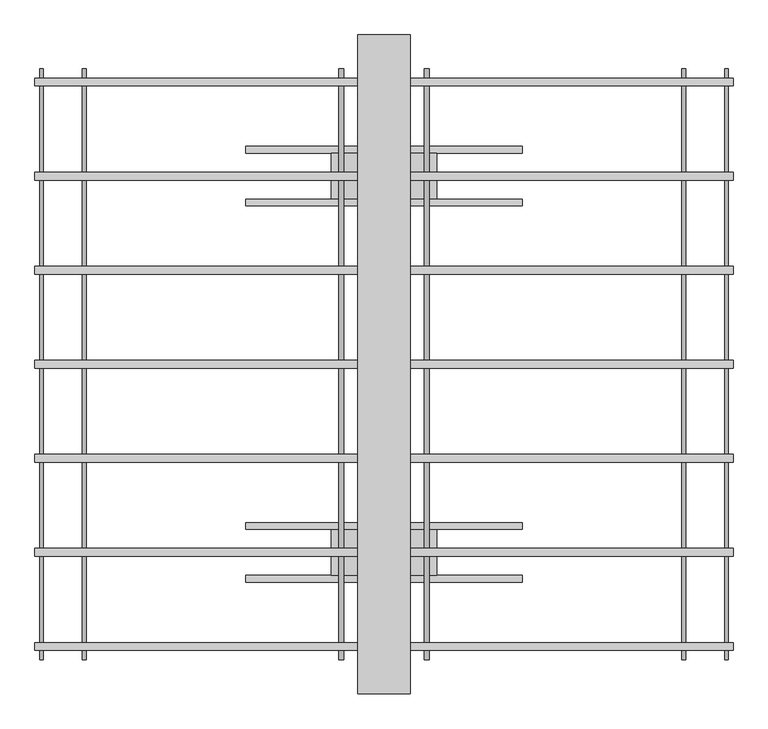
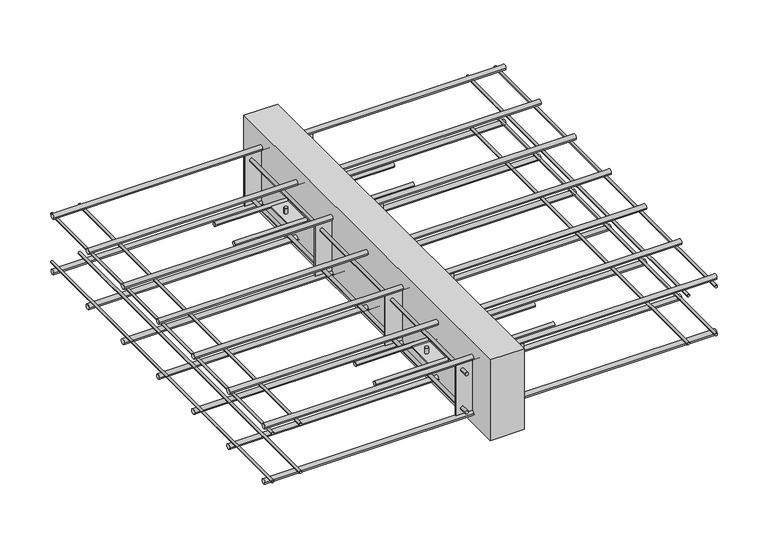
"""IFC4 building model written with IfcOpenShell, lengths in millimetres: proxy geometry, ACINOXplus_Typenreihe_M : ME+ S2."""

from ifc_helpers import new_model, si_unit, point, frame, frame_2d, origin, place, context, project, spatial, polyline, circle_curve, trimmed, segment, composite_curve, outline, extrude, source, transform, mapped, element, save
from ifc_brep_helpers import plane_surface, cylinder_surface, advanced_brep


def generic_models_80c5ff1a(model_context):
    return source(origin(), model_context, "Body", "SolidModel", [
        extrude(outline(composite_curve([segment(trimmed(circle_curve(frame_2d((-325.7142857, -104.5)), 5.0), [point((-330.7142857, -104.5))], [point((-320.7142857, -104.5))], False, "CARTESIAN"), True, "CONTINUOUS"), segment(trimmed(circle_curve(frame_2d((-325.7142857, -104.5)), 5.0), [point((-320.7142857, -104.5))], [point((-330.7142857, -104.5))], False, "CARTESIAN"), True, "CONTINUOUS")], self_intersect=False)), frame((-210.0, 0.0, 0.0), z_axis=(1.0, 0.0, 0.0), x_axis=(0.0, 1.0, 0.0)), (0.0, 0.0, 1.0), 420.0),
        extrude(outline(composite_curve([segment(trimmed(circle_curve(frame_2d((-245.7142857, -104.5)), 5.0), [point((-250.7142857, -104.5))], [point((-240.7142857, -104.5))], False, "CARTESIAN"), True, "CONTINUOUS"), segment(trimmed(circle_curve(frame_2d((-245.7142857, -104.5)), 5.0), [point((-240.7142857, -104.5))], [point((-250.7142857, -104.5))], False, "CARTESIAN"), True, "CONTINUOUS")], self_intersect=False)), frame((-210.0, 0.0, 0.0), z_axis=(1.0, 0.0, 0.0), x_axis=(0.0, 1.0, 0.0)), (0.0, 0.0, 1.0), 420.0),
        advanced_brep(
        [(-69.0, -285.7142857, -89.5), (-61.0, -285.7142857, -89.5), (61.0, -285.7142857, -89.5), (69.0, -285.7142857, -89.5), (-69.0, -285.7142857, -119.5), (-61.0, -285.7142857, -119.5), (61.0, -285.7142857, -119.5), (69.0, -285.7142857, -119.5), (-69.0, -285.7142857, -103.0), (-61.0, -285.7142857, -103.0), (-61.0, -285.7142857, -106.0), (-69.0, -285.7142857, -106.0), (61.0, -285.7142857, -103.0), (69.0, -285.7142857, -103.0), (69.0, -285.7142857, -106.0), (61.0, -285.7142857, -106.0), (80.0, -250.7142857, -103.0), (-80.0, -250.7142857, -103.0), (-80.0, -320.7142857, -103.0), (80.0, -320.7142857, -103.0), (80.0, -250.7142857, -106.0), (80.0, -320.7142857, -106.0), (-80.0, -320.7142857, -106.0), (-80.0, -250.7142857, -106.0)],
        [
            (0, 1, circle_curve(frame((-65.0, -285.7142857, -89.5), z_axis=(0.0, 0.0, 1.0), x_axis=(1.0, 0.0, 0.0)), 4.0)),
            (1, 0, circle_curve(frame((-65.0, -285.7142857, -89.5), z_axis=(0.0, 0.0, 1.0), x_axis=(1.0, 0.0, 0.0)), 4.0)),
            (2, 3, circle_curve(frame((65.0, -285.7142857, -89.5), z_axis=(0.0, 0.0, 1.0), x_axis=(1.0, 0.0, 0.0)), 4.0)),
            (3, 2, circle_curve(frame((65.0, -285.7142857, -89.5), z_axis=(0.0, 0.0, 1.0), x_axis=(1.0, 0.0, 0.0)), 4.0)),
            (4, 5, circle_curve(frame((-65.0, -285.7142857, -119.5), z_axis=(0.0, 0.0, -1.0), x_axis=(1.0, 0.0, 0.0)), 4.0)),
            (5, 4, circle_curve(frame((-65.0, -285.7142857, -119.5), z_axis=(0.0, 0.0, -1.0), x_axis=(1.0, 0.0, 0.0)), 4.0)),
            (6, 7, circle_curve(frame((65.0, -285.7142857, -119.5), z_axis=(0.0, 0.0, -1.0), x_axis=(1.0, 0.0, 0.0)), 4.0)),
            (7, 6, circle_curve(frame((65.0, -285.7142857, -119.5), z_axis=(0.0, 0.0, -1.0), x_axis=(1.0, 0.0, 0.0)), 4.0)),
            (0, 8),
            (8, 9, circle_curve(frame((-65.0, -285.7142857, -103.0), z_axis=(0.0, 0.0, 1.0), x_axis=(1.0, 0.0, 0.0)), 4.0)),
            (9, 1),
            (5, 10),
            (10, 11, circle_curve(frame((-65.0, -285.7142857, -106.0), z_axis=(0.0, 0.0, -1.0), x_axis=(1.0, 0.0, 0.0)), 4.0)),
            (11, 4),
            (9, 8, circle_curve(frame((-65.0, -285.7142857, -103.0), z_axis=(0.0, 0.0, 1.0), x_axis=(1.0, 0.0, 0.0)), 4.0)),
            (11, 10, circle_curve(frame((-65.0, -285.7142857, -106.0), z_axis=(0.0, 0.0, -1.0), x_axis=(1.0, 0.0, 0.0)), 4.0)),
            (2, 12),
            (12, 13, circle_curve(frame((65.0, -285.7142857, -103.0), z_axis=(0.0, 0.0, 1.0), x_axis=(1.0, 0.0, 0.0)), 4.0)),
            (13, 3),
            (7, 14),
            (14, 15, circle_curve(frame((65.0, -285.7142857, -106.0), z_axis=(0.0, 0.0, -1.0), x_axis=(1.0, 0.0, 0.0)), 4.0)),
            (15, 6),
            (13, 12, circle_curve(frame((65.0, -285.7142857, -103.0), z_axis=(0.0, 0.0, 1.0), x_axis=(1.0, 0.0, 0.0)), 4.0)),
            (15, 14, circle_curve(frame((65.0, -285.7142857, -106.0), z_axis=(0.0, 0.0, -1.0), x_axis=(1.0, 0.0, 0.0)), 4.0)),
            (16, 17),
            (17, 18),
            (18, 19),
            (19, 16),
            (20, 21),
            (21, 22),
            (22, 23),
            (23, 20),
            (16, 20),
            (23, 17),
            (22, 18),
            (21, 19),
        ],
        [
            plane_surface(frame((-61.0, -285.7142857, -89.5), z_axis=(0.0, 0.0, 1.0), x_axis=(0.0, 1.0, 0.0))),
            plane_surface(frame((-61.0, -285.7142857, -119.5), z_axis=(0.0, 0.0, -1.0), x_axis=(0.0, -1.0, 0.0))),
            cylinder_surface(frame((-65.0, -285.7142857, -119.5), z_axis=(0.0, 0.0, 1.0), x_axis=(1.0, 0.0, 0.0)), 4.0),
            cylinder_surface(frame((65.0, -285.7142857, -104.5), z_axis=(0.0, 0.0, 1.0), x_axis=(1.0, 0.0, 0.0)), 4.0),
            plane_surface(frame((-80.0, -250.7142857, -103.0), z_axis=(0.0, 0.0, 1.0), x_axis=(-1.0, 0.0, 0.0))),
            plane_surface(frame((-80.0, -250.7142857, -106.0), z_axis=(0.0, 0.0, -1.0), x_axis=(1.0, 0.0, 0.0))),
            plane_surface(frame((80.0, -250.7142857, -103.0), z_axis=(0.0, 1.0, 0.0), x_axis=(0.0, 0.0, -1.0))),
            plane_surface(frame((-80.0, -250.7142857, -103.0), z_axis=(-1.0, 0.0, 0.0), x_axis=(0.0, 0.0, -1.0))),
            plane_surface(frame((-80.0, -320.7142857, -103.0), z_axis=(0.0, -1.0, 0.0), x_axis=(0.0, 0.0, -1.0))),
            plane_surface(frame((80.0, -320.7142857, -103.0), z_axis=(1.0, 0.0, 0.0), x_axis=(0.0, 0.0, -1.0))),
        ],
        [
            (0, [[1, 2]]),
            (0, [[3, 4]]),
            (1, [[5, 6]]),
            (1, [[7, 8]]),
            (2, [[-1, 9, 10, 11]]),
            (2, [[-6, 12, 13, 14]]),
            (2, [[-2, -11, 15, -9]]),
            (2, [[-5, -14, 16, -12]]),
            (3, [[-3, 17, 18, 19]]),
            (3, [[-8, 20, 21, 22]]),
            (3, [[-4, -19, 23, -17]]),
            (3, [[-7, -22, 24, -20]]),
            (4, [[25, 26, 27, 28], [-10, -15], [-18, -23]]),
            (5, [[29, 30, 31, 32], [-13, -16], [-21, -24]]),
            (6, [[-25, 33, -32, 34]]),
            (7, [[-26, -34, -31, 35]]),
            (8, [[-27, -35, -30, 36]]),
            (9, [[-28, -36, -29, -33]]),
        ],
    ),
        extrude(outline(composite_curve([segment(trimmed(circle_curve(frame_2d((245.7142857, -104.5)), 5.0), [point((240.7142857, -104.5))], [point((250.7142857, -104.5))], False, "CARTESIAN"), True, "CONTINUOUS"), segment(trimmed(circle_curve(frame_2d((245.7142857, -104.5)), 5.0), [point((250.7142857, -104.5))], [point((240.7142857, -104.5))], False, "CARTESIAN"), True, "CONTINUOUS")], self_intersect=False)), frame((-210.0, 0.0, 0.0), z_axis=(1.0, 0.0, 0.0), x_axis=(0.0, 1.0, 0.0)), (0.0, 0.0, 1.0), 420.0),
        extrude(outline(composite_curve([segment(trimmed(circle_curve(frame_2d((325.7142857, -104.5)), 5.0), [point((320.7142857, -104.5))], [point((330.7142857, -104.5))], False, "CARTESIAN"), True, "CONTINUOUS"), segment(trimmed(circle_curve(frame_2d((325.7142857, -104.5)), 5.0), [point((330.7142857, -104.5))], [point((320.7142857, -104.5))], False, "CARTESIAN"), True, "CONTINUOUS")], self_intersect=False)), frame((-210.0, 0.0, 0.0), z_axis=(1.0, 0.0, 0.0), x_axis=(0.0, 1.0, 0.0)), (0.0, 0.0, 1.0), 420.0),
        advanced_brep(
        [(-69.0, 285.7142857, -89.5), (-61.0, 285.7142857, -89.5), (61.0, 285.7142857, -89.5), (69.0, 285.7142857, -89.5), (-69.0, 285.7142857, -119.5), (-61.0, 285.7142857, -119.5), (61.0, 285.7142857, -119.5), (69.0, 285.7142857, -119.5), (-69.0, 285.7142857, -103.0), (-61.0, 285.7142857, -103.0), (-61.0, 285.7142857, -106.0), (-69.0, 285.7142857, -106.0), (61.0, 285.7142857, -103.0), (69.0, 285.7142857, -103.0), (69.0, 285.7142857, -106.0), (61.0, 285.7142857, -106.0), (80.0, 320.7142857, -103.0), (-80.0, 320.7142857, -103.0), (-80.0, 250.7142857, -103.0), (80.0, 250.7142857, -103.0), (80.0, 320.7142857, -106.0), (80.0, 250.7142857, -106.0), (-80.0, 250.7142857, -106.0), (-80.0, 320.7142857, -106.0)],
        [
            (0, 1, circle_curve(frame((-65.0, 285.7142857, -89.5), z_axis=(0.0, 0.0, 1.0), x_axis=(1.0, 0.0, 0.0)), 4.0)),
            (1, 0, circle_curve(frame((-65.0, 285.7142857, -89.5), z_axis=(0.0, 0.0, 1.0), x_axis=(1.0, 0.0, 0.0)), 4.0)),
            (2, 3, circle_curve(frame((65.0, 285.7142857, -89.5), z_axis=(0.0, 0.0, 1.0), x_axis=(1.0, 0.0, 0.0)), 4.0)),
            (3, 2, circle_curve(frame((65.0, 285.7142857, -89.5), z_axis=(0.0, 0.0, 1.0), x_axis=(1.0, 0.0, 0.0)), 4.0)),
            (4, 5, circle_curve(frame((-65.0, 285.7142857, -119.5), z_axis=(0.0, 0.0, -1.0), x_axis=(1.0, 0.0, 0.0)), 4.0)),
            (5, 4, circle_curve(frame((-65.0, 285.7142857, -119.5), z_axis=(0.0, 0.0, -1.0), x_axis=(1.0, 0.0, 0.0)), 4.0)),
            (6, 7, circle_curve(frame((65.0, 285.7142857, -119.5), z_axis=(0.0, 0.0, -1.0), x_axis=(1.0, 0.0, 0.0)), 4.0)),
            (7, 6, circle_curve(frame((65.0, 285.7142857, -119.5), z_axis=(0.0, 0.0, -1.0), x_axis=(1.0, 0.0, 0.0)), 4.0)),
            (0, 8),
            (8, 9, circle_curve(frame((-65.0, 285.7142857, -103.0), z_axis=(0.0, 0.0, 1.0), x_axis=(1.0, 0.0, 0.0)), 4.0)),
            (9, 1),
            (5, 10),
            (10, 11, circle_curve(frame((-65.0, 285.7142857, -106.0), z_axis=(0.0, 0.0, -1.0), x_axis=(1.0, 0.0, 0.0)), 4.0)),
            (11, 4),
            (9, 8, circle_curve(frame((-65.0, 285.7142857, -103.0), z_axis=(0.0, 0.0, 1.0), x_axis=(1.0, 0.0, 0.0)), 4.0)),
            (11, 10, circle_curve(frame((-65.0, 285.7142857, -106.0), z_axis=(0.0, 0.0, -1.0), x_axis=(1.0, 0.0, 0.0)), 4.0)),
            (2, 12),
            (12, 13, circle_curve(frame((65.0, 285.7142857, -103.0), z_axis=(0.0, 0.0, 1.0), x_axis=(1.0, 0.0, 0.0)), 4.0)),
            (13, 3),
            (7, 14),
            (14, 15, circle_curve(frame((65.0, 285.7142857, -106.0), z_axis=(0.0, 0.0, -1.0), x_axis=(1.0, 0.0, 0.0)), 4.0)),
            (15, 6),
            (13, 12, circle_curve(frame((65.0, 285.7142857, -103.0), z_axis=(0.0, 0.0, 1.0), x_axis=(1.0, 0.0, 0.0)), 4.0)),
            (15, 14, circle_curve(frame((65.0, 285.7142857, -106.0), z_axis=(0.0, 0.0, -1.0), x_axis=(1.0, 0.0, 0.0)), 4.0)),
            (16, 17),
            (17, 18),
            (18, 19),
            (19, 16),
            (20, 21),
            (21, 22),
            (22, 23),
            (23, 20),
            (16, 20),
            (23, 17),
            (22, 18),
            (21, 19),
        ],
        [
            plane_surface(frame((-61.0, 285.7142857, -89.5), z_axis=(0.0, 0.0, 1.0), x_axis=(0.0, 1.0, 0.0))),
            plane_surface(frame((-61.0, 285.7142857, -119.5), z_axis=(0.0, 0.0, -1.0), x_axis=(0.0, -1.0, 0.0))),
            cylinder_surface(frame((-65.0, 285.7142857, -119.5), z_axis=(0.0, 0.0, 1.0), x_axis=(1.0, 0.0, 0.0)), 4.0),
            cylinder_surface(frame((65.0, 285.7142857, -104.5), z_axis=(0.0, 0.0, 1.0), x_axis=(1.0, 0.0, 0.0)), 4.0),
            plane_surface(frame((-80.0, 320.7142857, -103.0), z_axis=(0.0, 0.0, 1.0), x_axis=(-1.0, 0.0, 0.0))),
            plane_surface(frame((-80.0, 320.7142857, -106.0), z_axis=(0.0, 0.0, -1.0), x_axis=(1.0, 0.0, 0.0))),
            plane_surface(frame((80.0, 320.7142857, -103.0), z_axis=(0.0, 1.0, 0.0), x_axis=(0.0, 0.0, -1.0))),
            plane_surface(frame((-80.0, 320.7142857, -103.0), z_axis=(-1.0, 0.0, 0.0), x_axis=(0.0, 0.0, -1.0))),
            plane_surface(frame((-80.0, 250.7142857, -103.0), z_axis=(0.0, -1.0, 0.0), x_axis=(0.0, 0.0, -1.0))),
            plane_surface(frame((80.0, 250.7142857, -103.0), z_axis=(1.0, 0.0, 0.0), x_axis=(0.0, 0.0, -1.0))),
        ],
        [
            (0, [[1, 2]]),
            (0, [[3, 4]]),
            (1, [[5, 6]]),
            (1, [[7, 8]]),
            (2, [[-1, 9, 10, 11]]),
            (2, [[-6, 12, 13, 14]]),
            (2, [[-2, -11, 15, -9]]),
            (2, [[-5, -14, 16, -12]]),
            (3, [[-3, 17, 18, 19]]),
            (3, [[-8, 20, 21, 22]]),
            (3, [[-4, -19, 23, -17]]),
            (3, [[-7, -22, 24, -20]]),
            (4, [[25, 26, 27, 28], [-10, -15], [-18, -23]]),
            (5, [[29, 30, 31, 32], [-13, -16], [-21, -24]]),
            (6, [[-25, 33, -32, 34]]),
            (7, [[-26, -34, -31, 35]]),
            (8, [[-27, -35, -30, 36]]),
            (9, [[-28, -36, -29, -33]]),
        ],
    ),
        extrude(outline(polyline([(40.0, 500.0), (40.0, -500.0), (-40.0, -500.0), (-40.0, 500.0), (40.0, 500.0)])), frame((0.0, 0.0, -200.0), z_axis=(0.0, 0.0, 1.0), x_axis=(1.0, 0.0, 0.0)), (0.0, 0.0, 1.0), 200.0),
        extrude(outline(polyline([(80.0, -141.3571429), (80.0, -144.3571429), (-80.0, -144.3571429), (-80.0, -141.3571429), (80.0, -141.3571429)])), frame((0.0, 0.0, -167.0), z_axis=(0.0, 0.0, 1.0), x_axis=(1.0, 0.0, 0.0)), (0.0, 0.0, 1.0), 125.0),
        extrude(outline(polyline([(80.0, 144.3571429), (80.0, 141.3571429), (-80.0, 141.3571429), (-80.0, 144.3571429), (80.0, 144.3571429)])), frame((0.0, 0.0, -167.0), z_axis=(0.0, 0.0, 1.0), x_axis=(1.0, 0.0, 0.0)), (0.0, 0.0, 1.0), 125.0),
        extrude(outline(polyline([(80.0, -427.0714286), (80.0, -430.0714286), (-80.0, -430.0714286), (-80.0, -427.0714286), (80.0, -427.0714286)])), frame((0.0, 0.0, -167.0), z_axis=(0.0, 0.0, 1.0), x_axis=(1.0, 0.0, 0.0)), (0.0, 0.0, 1.0), 125.0),
        extrude(outline(polyline([(80.0, 430.0714286), (80.0, 427.0714286), (-80.0, 427.0714286), (-80.0, 430.0714286), (80.0, 430.0714286)])), frame((0.0, 0.0, -167.0), z_axis=(0.0, 0.0, 1.0), x_axis=(1.0, 0.0, 0.0)), (0.0, 0.0, 1.0), 125.0),
        extrude(outline(composite_curve([segment(trimmed(circle_curve(frame_2d((-152.0, -65.0)), 4.0), [point((-152.0, -61.0))], [point((-152.0, -69.0))], False, "CARTESIAN"), True, "CONTINUOUS"), segment(trimmed(circle_curve(frame_2d((-152.0, -65.0)), 4.0), [point((-152.0, -69.0))], [point((-152.0, -61.0))], False, "CARTESIAN"), True, "CONTINUOUS")], self_intersect=False)), frame((0.0, -448.5714286, 0.0), z_axis=(0.0, 1.0, 0.0), x_axis=(0.0, 0.0, 1.0)), (0.0, 0.0, 1.0), 18.5),
        extrude(outline(composite_curve([segment(trimmed(circle_curve(frame_2d((-152.0, -65.0)), 4.0), [point((-152.0, -69.0))], [point((-152.0, -61.0))], False, "CARTESIAN"), True, "CONTINUOUS"), segment(trimmed(circle_curve(frame_2d((-152.0, -65.0)), 4.0), [point((-152.0, -61.0))], [point((-152.0, -69.0))], False, "CARTESIAN"), True, "CONTINUOUS")], self_intersect=False)), frame((0.0, -427.0714286, 0.0), z_axis=(0.0, 1.0, 0.0), x_axis=(0.0, 0.0, 1.0)), (0.0, 0.0, 1.0), 568.4285714),
        extrude(outline(composite_curve([segment(trimmed(circle_curve(frame_2d((-152.0, -65.0)), 4.0), [point((-152.0, -69.0))], [point((-152.0, -61.0))], False, "CARTESIAN"), True, "CONTINUOUS"), segment(trimmed(circle_curve(frame_2d((-152.0, -65.0)), 4.0), [point((-152.0, -61.0))], [point((-152.0, -69.0))], False, "CARTESIAN"), True, "CONTINUOUS")], self_intersect=False)), frame((0.0, 430.0714286, 0.0), z_axis=(0.0, 1.0, 0.0), x_axis=(0.0, 0.0, 1.0)), (0.0, 0.0, 1.0), 18.5),
        extrude(outline(composite_curve([segment(trimmed(circle_curve(frame_2d((-152.0, -65.0)), 4.0), [point((-152.0, -69.0))], [point((-152.0, -61.0))], False, "CARTESIAN"), True, "CONTINUOUS"), segment(trimmed(circle_curve(frame_2d((-152.0, -65.0)), 4.0), [point((-152.0, -61.0))], [point((-152.0, -69.0))], False, "CARTESIAN"), True, "CONTINUOUS")], self_intersect=False)), frame((0.0, 144.3571429, 0.0), z_axis=(0.0, 1.0, 0.0), x_axis=(0.0, 0.0, 1.0)), (0.0, 0.0, 1.0), 282.7142857),
        extrude(outline(composite_curve([segment(trimmed(circle_curve(frame_2d((-152.0, 65.0)), 4.0), [point((-152.0, 69.0))], [point((-152.0, 61.0))], False, "CARTESIAN"), True, "CONTINUOUS"), segment(trimmed(circle_curve(frame_2d((-152.0, 65.0)), 4.0), [point((-152.0, 61.0))], [point((-152.0, 69.0))], False, "CARTESIAN"), True, "CONTINUOUS")], self_intersect=False)), frame((0.0, -448.5714286, 0.0), z_axis=(0.0, 1.0, 0.0), x_axis=(0.0, 0.0, 1.0)), (0.0, 0.0, 1.0), 18.5),
        extrude(outline(composite_curve([segment(trimmed(circle_curve(frame_2d((-152.0, 65.0)), 4.0), [point((-152.0, 61.0))], [point((-152.0, 69.0))], False, "CARTESIAN"), True, "CONTINUOUS"), segment(trimmed(circle_curve(frame_2d((-152.0, 65.0)), 4.0), [point((-152.0, 69.0))], [point((-152.0, 61.0))], False, "CARTESIAN"), True, "CONTINUOUS")], self_intersect=False)), frame((0.0, -427.0714286, 0.0), z_axis=(0.0, 1.0, 0.0), x_axis=(0.0, 0.0, 1.0)), (0.0, 0.0, 1.0), 568.4285714),
        extrude(outline(composite_curve([segment(trimmed(circle_curve(frame_2d((-152.0, 65.0)), 4.0), [point((-152.0, 61.0))], [point((-152.0, 69.0))], False, "CARTESIAN"), True, "CONTINUOUS"), segment(trimmed(circle_curve(frame_2d((-152.0, 65.0)), 4.0), [point((-152.0, 69.0))], [point((-152.0, 61.0))], False, "CARTESIAN"), True, "CONTINUOUS")], self_intersect=False)), frame((0.0, 430.0714286, 0.0), z_axis=(0.0, 1.0, 0.0), x_axis=(0.0, 0.0, 1.0)), (0.0, 0.0, 1.0), 18.5),
        extrude(outline(composite_curve([segment(trimmed(circle_curve(frame_2d((-152.0, 65.0)), 4.0), [point((-152.0, 61.0))], [point((-152.0, 69.0))], False, "CARTESIAN"), True, "CONTINUOUS"), segment(trimmed(circle_curve(frame_2d((-152.0, 65.0)), 4.0), [point((-152.0, 69.0))], [point((-152.0, 61.0))], False, "CARTESIAN"), True, "CONTINUOUS")], self_intersect=False)), frame((0.0, 144.3571429, 0.0), z_axis=(0.0, 1.0, 0.0), x_axis=(0.0, 0.0, 1.0)), (0.0, 0.0, 1.0), 282.7142857),
        extrude(outline(composite_curve([segment(trimmed(circle_curve(frame_2d((-57.0, -65.0)), 4.0), [point((-57.0, -61.0))], [point((-57.0, -69.0))], False, "CARTESIAN"), True, "CONTINUOUS"), segment(trimmed(circle_curve(frame_2d((-57.0, -65.0)), 4.0), [point((-57.0, -69.0))], [point((-57.0, -61.0))], False, "CARTESIAN"), True, "CONTINUOUS")], self_intersect=False)), frame((0.0, -448.5714286, 0.0), z_axis=(0.0, 1.0, 0.0), x_axis=(0.0, 0.0, 1.0)), (0.0, 0.0, 1.0), 18.5),
        extrude(outline(composite_curve([segment(trimmed(circle_curve(frame_2d((-57.0, -65.0)), 4.0), [point((-57.0, -69.0))], [point((-57.0, -61.0))], False, "CARTESIAN"), True, "CONTINUOUS"), segment(trimmed(circle_curve(frame_2d((-57.0, -65.0)), 4.0), [point((-57.0, -61.0))], [point((-57.0, -69.0))], False, "CARTESIAN"), True, "CONTINUOUS")], self_intersect=False)), frame((0.0, -427.0714286, 0.0), z_axis=(0.0, 1.0, 0.0), x_axis=(0.0, 0.0, 1.0)), (0.0, 0.0, 1.0), 568.4285714),
        extrude(outline(composite_curve([segment(trimmed(circle_curve(frame_2d((-57.0, -65.0)), 4.0), [point((-57.0, -69.0))], [point((-57.0, -61.0))], False, "CARTESIAN"), True, "CONTINUOUS"), segment(trimmed(circle_curve(frame_2d((-57.0, -65.0)), 4.0), [point((-57.0, -61.0))], [point((-57.0, -69.0))], False, "CARTESIAN"), True, "CONTINUOUS")], self_intersect=False)), frame((0.0, 430.0714286, 0.0), z_axis=(0.0, 1.0, 0.0), x_axis=(0.0, 0.0, 1.0)), (0.0, 0.0, 1.0), 18.5),
        extrude(outline(composite_curve([segment(trimmed(circle_curve(frame_2d((-57.0, -65.0)), 4.0), [point((-57.0, -69.0))], [point((-57.0, -61.0))], False, "CARTESIAN"), True, "CONTINUOUS"), segment(trimmed(circle_curve(frame_2d((-57.0, -65.0)), 4.0), [point((-57.0, -61.0))], [point((-57.0, -69.0))], False, "CARTESIAN"), True, "CONTINUOUS")], self_intersect=False)), frame((0.0, 144.3571429, 0.0), z_axis=(0.0, 1.0, 0.0), x_axis=(0.0, 0.0, 1.0)), (0.0, 0.0, 1.0), 282.7142857),
        extrude(outline(composite_curve([segment(trimmed(circle_curve(frame_2d((-57.0, 65.0)), 4.0), [point((-57.0, 69.0))], [point((-57.0, 61.0))], False, "CARTESIAN"), True, "CONTINUOUS"), segment(trimmed(circle_curve(frame_2d((-57.0, 65.0)), 4.0), [point((-57.0, 61.0))], [point((-57.0, 69.0))], False, "CARTESIAN"), True, "CONTINUOUS")], self_intersect=False)), frame((0.0, -448.5714286, 0.0), z_axis=(0.0, 1.0, 0.0), x_axis=(0.0, 0.0, 1.0)), (0.0, 0.0, 1.0), 18.5),
        extrude(outline(composite_curve([segment(trimmed(circle_curve(frame_2d((-57.0, 65.0)), 4.0), [point((-57.0, 61.0))], [point((-57.0, 69.0))], False, "CARTESIAN"), True, "CONTINUOUS"), segment(trimmed(circle_curve(frame_2d((-57.0, 65.0)), 4.0), [point((-57.0, 69.0))], [point((-57.0, 61.0))], False, "CARTESIAN"), True, "CONTINUOUS")], self_intersect=False)), frame((0.0, -427.0714286, 0.0), z_axis=(0.0, 1.0, 0.0), x_axis=(0.0, 0.0, 1.0)), (0.0, 0.0, 1.0), 568.4285714),
        extrude(outline(composite_curve([segment(trimmed(circle_curve(frame_2d((-57.0, 65.0)), 4.0), [point((-57.0, 61.0))], [point((-57.0, 69.0))], False, "CARTESIAN"), True, "CONTINUOUS"), segment(trimmed(circle_curve(frame_2d((-57.0, 65.0)), 4.0), [point((-57.0, 69.0))], [point((-57.0, 61.0))], False, "CARTESIAN"), True, "CONTINUOUS")], self_intersect=False)), frame((0.0, 430.0714286, 0.0), z_axis=(0.0, 1.0, 0.0), x_axis=(0.0, 0.0, 1.0)), (0.0, 0.0, 1.0), 18.5),
        extrude(outline(composite_curve([segment(trimmed(circle_curve(frame_2d((-57.0, 65.0)), 4.0), [point((-57.0, 61.0))], [point((-57.0, 69.0))], False, "CARTESIAN"), True, "CONTINUOUS"), segment(trimmed(circle_curve(frame_2d((-57.0, 65.0)), 4.0), [point((-57.0, 69.0))], [point((-57.0, 61.0))], False, "CARTESIAN"), True, "CONTINUOUS")], self_intersect=False)), frame((0.0, 144.3571429, 0.0), z_axis=(0.0, 1.0, 0.0), x_axis=(0.0, 0.0, 1.0)), (0.0, 0.0, 1.0), 282.7142857),
        extrude(outline(composite_curve([segment(trimmed(circle_curve(frame_2d((142.8571429, -173.0)), 6.0), [point((136.8571429, -173.0))], [point((148.8571429, -173.0))], False, "CARTESIAN"), True, "CONTINUOUS"), segment(trimmed(circle_curve(frame_2d((142.8571429, -173.0)), 6.0), [point((148.8571429, -173.0))], [point((136.8571429, -173.0))], False, "CARTESIAN"), True, "CONTINUOUS")], self_intersect=False)), frame((-530.0, 0.0, 0.0), z_axis=(1.0, 0.0, 0.0), x_axis=(0.0, 1.0, 0.0)), (0.0, 0.0, 1.0), 1060.0),
        extrude(outline(composite_curve([segment(trimmed(circle_curve(frame_2d((0.0, -173.0)), 6.0), [point((-6.0, -173.0))], [point((6.0, -173.0))], False, "CARTESIAN"), True, "CONTINUOUS"), segment(trimmed(circle_curve(frame_2d((0.0, -173.0)), 6.0), [point((6.0, -173.0))], [point((-6.0, -173.0))], False, "CARTESIAN"), True, "CONTINUOUS")], self_intersect=False)), frame((-530.0, 0.0, 0.0), z_axis=(1.0, 0.0, 0.0), x_axis=(0.0, 1.0, 0.0)), (0.0, 0.0, 1.0), 1060.0),
        extrude(outline(composite_curve([segment(trimmed(circle_curve(frame_2d((-142.8571429, -173.0)), 6.0), [point((-148.8571429, -173.0))], [point((-136.8571429, -173.0))], False, "CARTESIAN"), True, "CONTINUOUS"), segment(trimmed(circle_curve(frame_2d((-142.8571429, -173.0)), 6.0), [point((-136.8571429, -173.0))], [point((-148.8571429, -173.0))], False, "CARTESIAN"), True, "CONTINUOUS")], self_intersect=False)), frame((-530.0, 0.0, 0.0), z_axis=(1.0, 0.0, 0.0), x_axis=(0.0, 1.0, 0.0)), (0.0, 0.0, 1.0), 1060.0),
        extrude(outline(composite_curve([segment(trimmed(circle_curve(frame_2d((285.7142857, -173.0)), 6.0), [point((279.7142857, -173.0))], [point((291.7142857, -173.0))], False, "CARTESIAN"), True, "CONTINUOUS"), segment(trimmed(circle_curve(frame_2d((285.7142857, -173.0)), 6.0), [point((291.7142857, -173.0))], [point((279.7142857, -173.0))], False, "CARTESIAN"), True, "CONTINUOUS")], self_intersect=False)), frame((-530.0, 0.0, 0.0), z_axis=(1.0, 0.0, 0.0), x_axis=(0.0, 1.0, 0.0)), (0.0, 0.0, 1.0), 1060.0),
        extrude(outline(composite_curve([segment(trimmed(circle_curve(frame_2d((428.5714286, -173.0)), 6.0), [point((422.5714286, -173.0))], [point((434.5714286, -173.0))], False, "CARTESIAN"), True, "CONTINUOUS"), segment(trimmed(circle_curve(frame_2d((428.5714286, -173.0)), 6.0), [point((434.5714286, -173.0))], [point((422.5714286, -173.0))], False, "CARTESIAN"), True, "CONTINUOUS")], self_intersect=False)), frame((-530.0, 0.0, 0.0), z_axis=(1.0, 0.0, 0.0), x_axis=(0.0, 1.0, 0.0)), (0.0, 0.0, 1.0), 1060.0),
        extrude(outline(composite_curve([segment(trimmed(circle_curve(frame_2d((-285.7142857, -173.0)), 6.0), [point((-291.7142857, -173.0))], [point((-279.7142857, -173.0))], False, "CARTESIAN"), True, "CONTINUOUS"), segment(trimmed(circle_curve(frame_2d((-285.7142857, -173.0)), 6.0), [point((-279.7142857, -173.0))], [point((-291.7142857, -173.0))], False, "CARTESIAN"), True, "CONTINUOUS")], self_intersect=False)), frame((-530.0, 0.0, 0.0), z_axis=(1.0, 0.0, 0.0), x_axis=(0.0, 1.0, 0.0)), (0.0, 0.0, 1.0), 1060.0),
        extrude(outline(composite_curve([segment(trimmed(circle_curve(frame_2d((-428.5714286, -173.0)), 6.0), [point((-434.5714286, -173.0))], [point((-422.5714286, -173.0))], False, "CARTESIAN"), True, "CONTINUOUS"), segment(trimmed(circle_curve(frame_2d((-428.5714286, -173.0)), 6.0), [point((-422.5714286, -173.0))], [point((-434.5714286, -173.0))], False, "CARTESIAN"), True, "CONTINUOUS")], self_intersect=False)), frame((-530.0, 0.0, 0.0), z_axis=(1.0, 0.0, 0.0), x_axis=(0.0, 1.0, 0.0)), (0.0, 0.0, 1.0), 1060.0),
        extrude(outline(composite_curve([segment(trimmed(circle_curve(frame_2d((142.8571429, -36.0)), 6.0), [point((136.8571429, -36.0))], [point((148.8571429, -36.0))], False, "CARTESIAN"), True, "CONTINUOUS"), segment(trimmed(circle_curve(frame_2d((142.8571429, -36.0)), 6.0), [point((148.8571429, -36.0))], [point((136.8571429, -36.0))], False, "CARTESIAN"), True, "CONTINUOUS")], self_intersect=False)), frame((-530.0, 0.0, 0.0), z_axis=(1.0, 0.0, 0.0), x_axis=(0.0, 1.0, 0.0)), (0.0, 0.0, 1.0), 1060.0),
        extrude(outline(composite_curve([segment(trimmed(circle_curve(frame_2d((0.0, -36.0)), 6.0), [point((-6.0, -36.0))], [point((6.0, -36.0))], False, "CARTESIAN"), True, "CONTINUOUS"), segment(trimmed(circle_curve(frame_2d((0.0, -36.0)), 6.0), [point((6.0, -36.0))], [point((-6.0, -36.0))], False, "CARTESIAN"), True, "CONTINUOUS")], self_intersect=False)), frame((-530.0, 0.0, 0.0), z_axis=(1.0, 0.0, 0.0), x_axis=(0.0, 1.0, 0.0)), (0.0, 0.0, 1.0), 1060.0),
        extrude(outline(composite_curve([segment(trimmed(circle_curve(frame_2d((-142.8571429, -36.0)), 6.0), [point((-148.8571429, -36.0))], [point((-136.8571429, -36.0))], False, "CARTESIAN"), True, "CONTINUOUS"), segment(trimmed(circle_curve(frame_2d((-142.8571429, -36.0)), 6.0), [point((-136.8571429, -36.0))], [point((-148.8571429, -36.0))], False, "CARTESIAN"), True, "CONTINUOUS")], self_intersect=False)), frame((-530.0, 0.0, 0.0), z_axis=(1.0, 0.0, 0.0), x_axis=(0.0, 1.0, 0.0)), (0.0, 0.0, 1.0), 1060.0),
        extrude(outline(composite_curve([segment(trimmed(circle_curve(frame_2d((285.7142857, -36.0)), 6.0), [point((279.7142857, -36.0))], [point((291.7142857, -36.0))], False, "CARTESIAN"), True, "CONTINUOUS"), segment(trimmed(circle_curve(frame_2d((285.7142857, -36.0)), 6.0), [point((291.7142857, -36.0))], [point((279.7142857, -36.0))], False, "CARTESIAN"), True, "CONTINUOUS")], self_intersect=False)), frame((-530.0, 0.0, 0.0), z_axis=(1.0, 0.0, 0.0), x_axis=(0.0, 1.0, 0.0)), (0.0, 0.0, 1.0), 1060.0),
        extrude(outline(composite_curve([segment(trimmed(circle_curve(frame_2d((428.5714286, -36.0)), 6.0), [point((422.5714286, -36.0))], [point((434.5714286, -36.0))], False, "CARTESIAN"), True, "CONTINUOUS"), segment(trimmed(circle_curve(frame_2d((428.5714286, -36.0)), 6.0), [point((434.5714286, -36.0))], [point((422.5714286, -36.0))], False, "CARTESIAN"), True, "CONTINUOUS")], self_intersect=False)), frame((-530.0, 0.0, 0.0), z_axis=(1.0, 0.0, 0.0), x_axis=(0.0, 1.0, 0.0)), (0.0, 0.0, 1.0), 1060.0),
        extrude(outline(composite_curve([segment(trimmed(circle_curve(frame_2d((-285.7142857, -36.0)), 6.0), [point((-291.7142857, -36.0))], [point((-279.7142857, -36.0))], False, "CARTESIAN"), True, "CONTINUOUS"), segment(trimmed(circle_curve(frame_2d((-285.7142857, -36.0)), 6.0), [point((-279.7142857, -36.0))], [point((-291.7142857, -36.0))], False, "CARTESIAN"), True, "CONTINUOUS")], self_intersect=False)), frame((-530.0, 0.0, 0.0), z_axis=(1.0, 0.0, 0.0), x_axis=(0.0, 1.0, 0.0)), (0.0, 0.0, 1.0), 1060.0),
        extrude(outline(composite_curve([segment(trimmed(circle_curve(frame_2d((-428.5714286, -36.0)), 6.0), [point((-434.5714286, -36.0))], [point((-422.5714286, -36.0))], False, "CARTESIAN"), True, "CONTINUOUS"), segment(trimmed(circle_curve(frame_2d((-428.5714286, -36.0)), 6.0), [point((-422.5714286, -36.0))], [point((-434.5714286, -36.0))], False, "CARTESIAN"), True, "CONTINUOUS")], self_intersect=False)), frame((-530.0, 0.0, 0.0), z_axis=(1.0, 0.0, 0.0), x_axis=(0.0, 1.0, 0.0)), (0.0, 0.0, 1.0), 1060.0),
        extrude(outline(composite_curve([segment(trimmed(circle_curve(frame_2d((-164.0, -520.0)), 3.0), [point((-164.0, -517.0))], [point((-164.0, -523.0))], False, "CARTESIAN"), True, "CONTINUOUS"), segment(trimmed(circle_curve(frame_2d((-164.0, -520.0)), 3.0), [point((-164.0, -523.0))], [point((-164.0, -517.0))], False, "CARTESIAN"), True, "CONTINUOUS")], self_intersect=False)), frame((0.0, -448.5714286, 0.0), z_axis=(0.0, 1.0, 0.0), x_axis=(0.0, 0.0, 1.0)), (0.0, 0.0, 1.0), 897.1428571),
        extrude(outline(composite_curve([segment(trimmed(circle_curve(frame_2d((-164.0, -455.0)), 3.0), [point((-164.0, -452.0))], [point((-164.0, -458.0))], False, "CARTESIAN"), True, "CONTINUOUS"), segment(trimmed(circle_curve(frame_2d((-164.0, -455.0)), 3.0), [point((-164.0, -458.0))], [point((-164.0, -452.0))], False, "CARTESIAN"), True, "CONTINUOUS")], self_intersect=False)), frame((0.0, -448.5714286, 0.0), z_axis=(0.0, 1.0, 0.0), x_axis=(0.0, 0.0, 1.0)), (0.0, 0.0, 1.0), 897.1428571),
        extrude(outline(composite_curve([segment(trimmed(circle_curve(frame_2d((-164.0, 455.0)), 3.0), [point((-164.0, 458.0))], [point((-164.0, 452.0))], False, "CARTESIAN"), True, "CONTINUOUS"), segment(trimmed(circle_curve(frame_2d((-164.0, 455.0)), 3.0), [point((-164.0, 452.0))], [point((-164.0, 458.0))], False, "CARTESIAN"), True, "CONTINUOUS")], self_intersect=False)), frame((0.0, -448.5714286, 0.0), z_axis=(0.0, 1.0, 0.0), x_axis=(0.0, 0.0, 1.0)), (0.0, 0.0, 1.0), 897.1428571),
        extrude(outline(composite_curve([segment(trimmed(circle_curve(frame_2d((-164.0, 520.0)), 3.0), [point((-164.0, 523.0))], [point((-164.0, 517.0))], False, "CARTESIAN"), True, "CONTINUOUS"), segment(trimmed(circle_curve(frame_2d((-164.0, 520.0)), 3.0), [point((-164.0, 517.0))], [point((-164.0, 523.0))], False, "CARTESIAN"), True, "CONTINUOUS")], self_intersect=False)), frame((0.0, -448.5714286, 0.0), z_axis=(0.0, 1.0, 0.0), x_axis=(0.0, 0.0, 1.0)), (0.0, 0.0, 1.0), 897.1428571),
        extrude(outline(composite_curve([segment(trimmed(circle_curve(frame_2d((-45.0, 455.0)), 3.0), [point((-45.0, 458.0))], [point((-45.0, 452.0))], False, "CARTESIAN"), True, "CONTINUOUS"), segment(trimmed(circle_curve(frame_2d((-45.0, 455.0)), 3.0), [point((-45.0, 452.0))], [point((-45.0, 458.0))], False, "CARTESIAN"), True, "CONTINUOUS")], self_intersect=False)), frame((0.0, -448.5714286, 0.0), z_axis=(0.0, 1.0, 0.0), x_axis=(0.0, 0.0, 1.0)), (0.0, 0.0, 1.0), 897.1428571),
        extrude(outline(composite_curve([segment(trimmed(circle_curve(frame_2d((-45.0, 520.0)), 3.0), [point((-45.0, 523.0))], [point((-45.0, 517.0))], False, "CARTESIAN"), True, "CONTINUOUS"), segment(trimmed(circle_curve(frame_2d((-45.0, 520.0)), 3.0), [point((-45.0, 517.0))], [point((-45.0, 523.0))], False, "CARTESIAN"), True, "CONTINUOUS")], self_intersect=False)), frame((0.0, -448.5714286, 0.0), z_axis=(0.0, 1.0, 0.0), x_axis=(0.0, 0.0, 1.0)), (0.0, 0.0, 1.0), 897.1428571),
        extrude(outline(composite_curve([segment(trimmed(circle_curve(frame_2d((-45.0, -520.0)), 3.0), [point((-45.0, -517.0))], [point((-45.0, -523.0))], False, "CARTESIAN"), True, "CONTINUOUS"), segment(trimmed(circle_curve(frame_2d((-45.0, -520.0)), 3.0), [point((-45.0, -523.0))], [point((-45.0, -517.0))], False, "CARTESIAN"), True, "CONTINUOUS")], self_intersect=False)), frame((0.0, -448.5714286, 0.0), z_axis=(0.0, 1.0, 0.0), x_axis=(0.0, 0.0, 1.0)), (0.0, 0.0, 1.0), 897.1428571),
        extrude(outline(composite_curve([segment(trimmed(circle_curve(frame_2d((-45.0, -455.0)), 3.0), [point((-45.0, -452.0))], [point((-45.0, -458.0))], False, "CARTESIAN"), True, "CONTINUOUS"), segment(trimmed(circle_curve(frame_2d((-45.0, -455.0)), 3.0), [point((-45.0, -458.0))], [point((-45.0, -452.0))], False, "CARTESIAN"), True, "CONTINUOUS")], self_intersect=False)), frame((0.0, -448.5714286, 0.0), z_axis=(0.0, 1.0, 0.0), x_axis=(0.0, 0.0, 1.0)), (0.0, 0.0, 1.0), 897.1428571),
    ])


if __name__ == "__main__":
    model = new_model("IFC4")
    model_context = context("Model", 3, world=origin())
    ifc_project = project(units=[si_unit("LENGTHUNIT", "METRE", prefix="MILLI")], contexts=[model_context])
    site = spatial("IfcSite", under=ifc_project)
    building = spatial("IfcBuilding", under=site)
    placement = place(None, origin())
    generic_models_shape = generic_models_80c5ff1a(model_context)
    element("IfcBuildingElementProxy", 1, Name="ACINOXplus_Typenreihe_M : ME+ S2", ObjectType="ACINOXplus_Typenreihe_M : ME+ S2", at=placement, inside=building, context=model_context, shape_type="MappedRepresentation", body=[
        mapped(generic_models_shape, transform((0.0, 0.0, 0.0), x_axis=(1.0, 0.0, 0.0), y_axis=(0.0, 1.0, 0.0), z_axis=(0.0, 0.0, 1.0))),
    ])
    save(model, "model.ifc")
